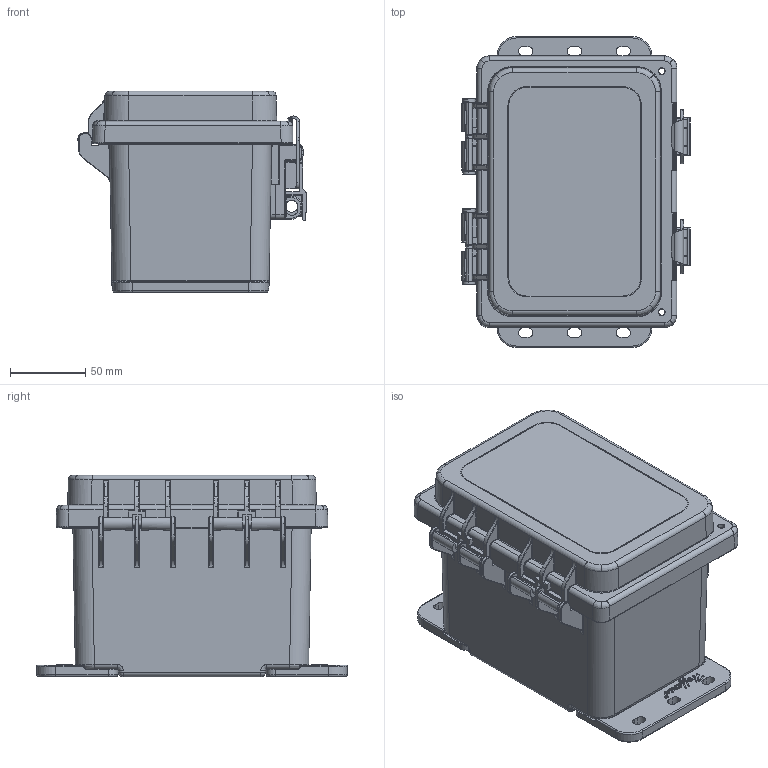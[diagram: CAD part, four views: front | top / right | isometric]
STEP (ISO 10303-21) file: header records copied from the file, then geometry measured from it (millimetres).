
FILE_DESCRIPTION (( 'STEP AP203' ), '1' );
FILE_NAME ('a644phc.STEP', '2019-04-01T20:24:14', ( '' ), ( '' ), 'SwSTEP 2.0', 'SolidWorks 2016', '' );
FILE_SCHEMA (( 'CONFIG_CONTROL_DESIGN' ));
Length unit declared in the file: inch
Products named in the file (8): 87934975_87934975; 87934973_87934973; 87934971_87934971; 87938571_87938571; a644phc; 87925592_87925592; 87925613_87925613; 87925633_87925633
Assembly tree (9 placements, depth 3):
  a644phc
    87925592_87925592
    87925613_87925613
    87925633_87925633  x2
    87938571_87938571  x2
      87934975_87934975
      87934973_87934973
      87934971_87934971
Bounding box: 152.05 x 206.98 x 134.33 mm (x, y, z)
Volume: 513294.4 mm3; surface area: 337820.9 mm2
Topology: 12 solids, 12 shells, 4751 faces, 12180 edges, 7260 vertices
Faces by surface type: cylinder 1464, bspline 1346, plane 1256, sphere 315, torus 275, cone 95
Entity records: 140048 total; most frequent: CARTESIAN_POINT 64762, ORIENTED_EDGE 17286, DIRECTION 13083, EDGE_CURVE 8643, VERTEX_POINT 5278, AXIS2_PLACEMENT_3D 4612, VECTOR 3859, LINE 3859
